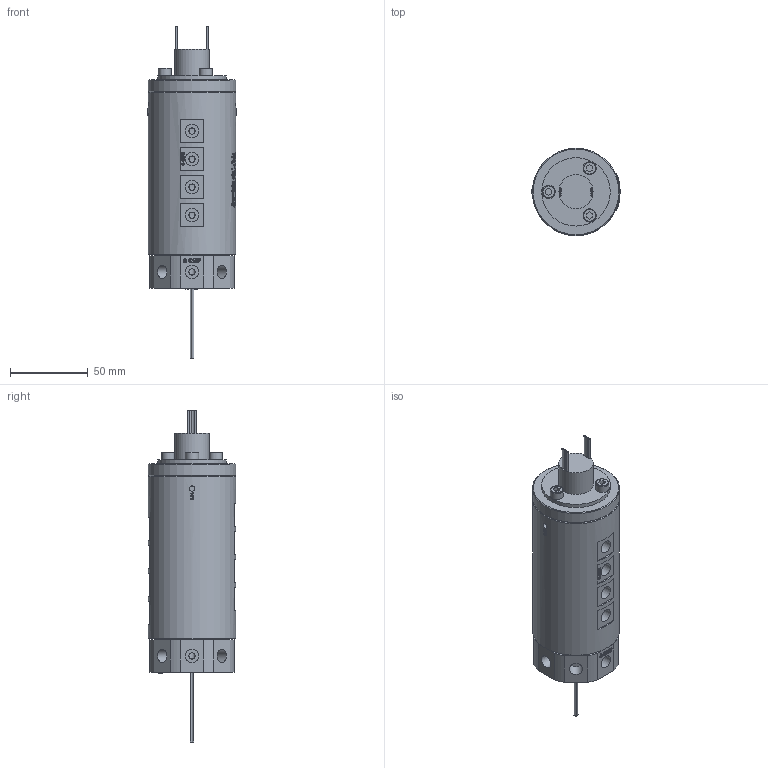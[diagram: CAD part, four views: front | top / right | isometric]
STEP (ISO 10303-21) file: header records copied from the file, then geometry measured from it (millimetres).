
FILE_DESCRIPTION(/* description */ (''),/* implementation_level */ '2;1');
FILE_NAME(/* name */ 'HQ0801-12M.stp',/* time_stamp */ '2025-02-14T11:57:42+08:00',/* author */ (''),/* organization */ (''),/* preprocessor_version */ 'ST-DEVELOPER v16.7',/* originating_system */ 'SIEMENS PLM Software NX 12.0',/* authorisation */ '');
FILE_SCHEMA (('AUTOMOTIVE_DESIGN { 1 0 10303 214 3 1 1 1 }'));
Length unit declared in the file: millimetre
Products named in the file (1): HX0540E8A2D8ngj5
Bounding box: 56.99 x 56 x 213.3 mm (x, y, z)
Volume: 323771.8 mm3; surface area: 45693.8 mm2
Topology: 1 solids, 5 shells, 1170 faces, 3068 edges, 2066 vertices
Faces by surface type: extrusion 503, plane 495, cylinder 132, bspline 30, cone 7, torus 3
Full cylindrical faces by diameter (mm): 0.8 x22, 3.4 x6, 4 x24, 4.1 x8, 4.2 x8, 5 x3, 5.5 x3, 8 x2, 8.5 x19, 22 x1, 34 x1, 44 x1, 56 x2
Entity records: 41995 total; most frequent: CARTESIAN_POINT 17433, ORIENTED_EDGE 5756, DIRECTION 3139, EDGE_CURVE 2878, B_SPLINE_CURVE_WITH_KNOTS 2414, VERTEX_POINT 1999, EDGE_LOOP 1459, ADVANCED_FACE 1167
